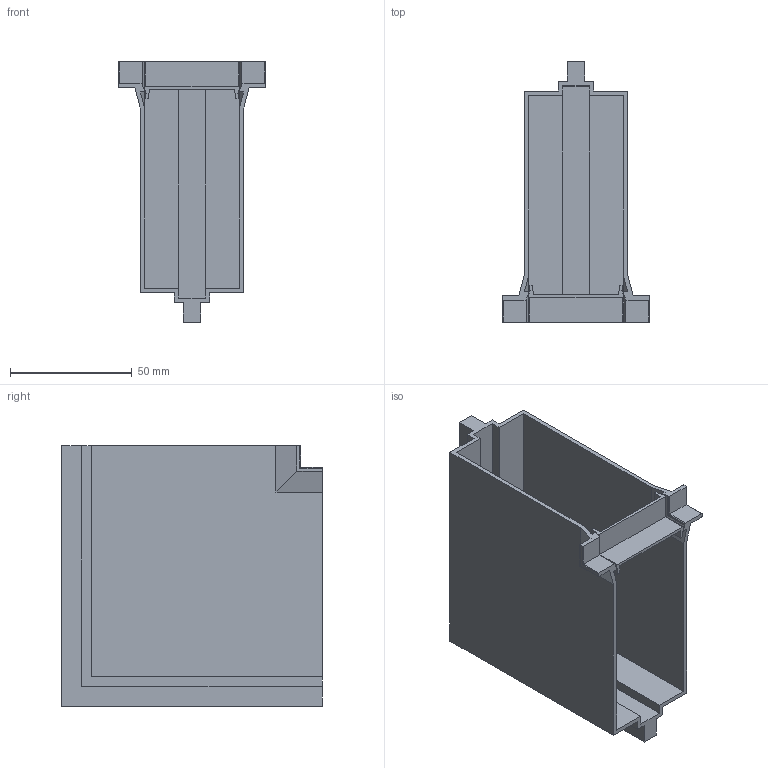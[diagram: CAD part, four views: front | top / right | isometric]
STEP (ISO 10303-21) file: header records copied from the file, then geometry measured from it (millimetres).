
FILE_DESCRIPTION(/* description */ (''),/* implementation_level */ '2;1');
FILE_NAME(/* name */ '05_x_t.stp',/* time_stamp */ '2018-03-02T11:07:39+01:00',/* author */ (''),/* organization */ (''),/* preprocessor_version */ 'ST-DEVELOPER v16',/* originating_system */ 'SIEMENS PLM Software NX 11.0',/* authorisation */ '');
FILE_SCHEMA (('AUTOMOTIVE_DESIGN { 1 0 10303 214 3 1 1 1 }'));
Length unit declared in the file: millimetre
Products named in the file (3): 05_id6_x_t; 05_id11_x_t; 05_x_t
Assembly tree (2 placements, depth 2):
  05_x_t
    05_id11_x_t
    05_id6_x_t
Bounding box: 60.4 x 107.2 x 107.2 mm (x, y, z)
Volume: 62237 mm3; surface area: 61222.2 mm2
Topology: 2 solids, 2 shells, 102 faces, 266 edges, 168 vertices
Faces by surface type: plane 78, bspline 24
Entity records: 3131 total; most frequent: CARTESIAN_POINT 683, ORIENTED_EDGE 532, DIRECTION 440, EDGE_CURVE 266, LINE 230, VECTOR 230, VERTEX_POINT 168, AXIS2_PLACEMENT_3D 105
